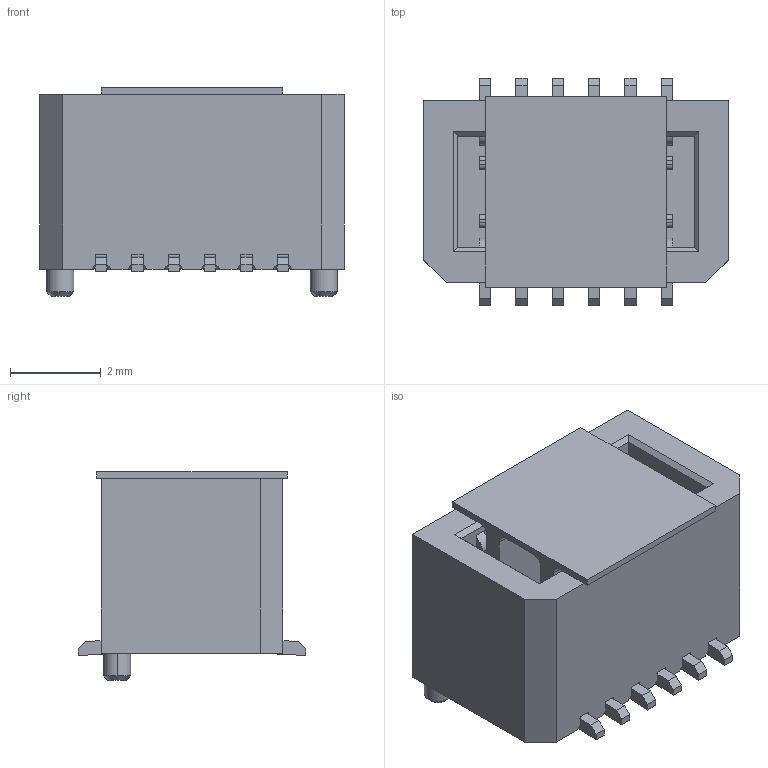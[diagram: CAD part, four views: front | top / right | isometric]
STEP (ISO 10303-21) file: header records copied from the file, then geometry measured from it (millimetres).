
FILE_DESCRIPTION(('CATIA V5 STEP Exchange'),'2;1');
FILE_NAME('F:\黄富鸿\板对板\PBB08B\母座\H3.9\带盖\HC-PBB08B-1-12-F-H3.9-XX-R-P-06 (BTB0.8 单槽 B型母座 立贴 带柱 编带+盖)-HCTL.stp','2026-01-26T10:17:43+00:00',('none'),('none'),'CATIA Version 5 Release 20 GA (IN-10)','CATIA V5 STEP AP203','none');
FILE_SCHEMA(('CONFIG_CONTROL_DESIGN'));
Length unit declared in the file: millimetre
Products named in the file (1): Part1
Bounding box: 6.7 x 5 x 4.6 mm (x, y, z)
Volume: 82.5 mm3; surface area: 395 mm2
Topology: 14 solids, 14 shells, 587 faces, 1744 edges, 1152 vertices
Faces by surface type: plane 359, cylinder 224, cone 4
Entity records: 18415 total; most frequent: ORIENTED_EDGE 3488, CARTESIAN_POINT 3309, DIRECTION 2556, EDGE_CURVE 1744, VECTOR 1288, LINE 1288, VERTEX_POINT 1152, AXIS2_PLACEMENT_3D 861
